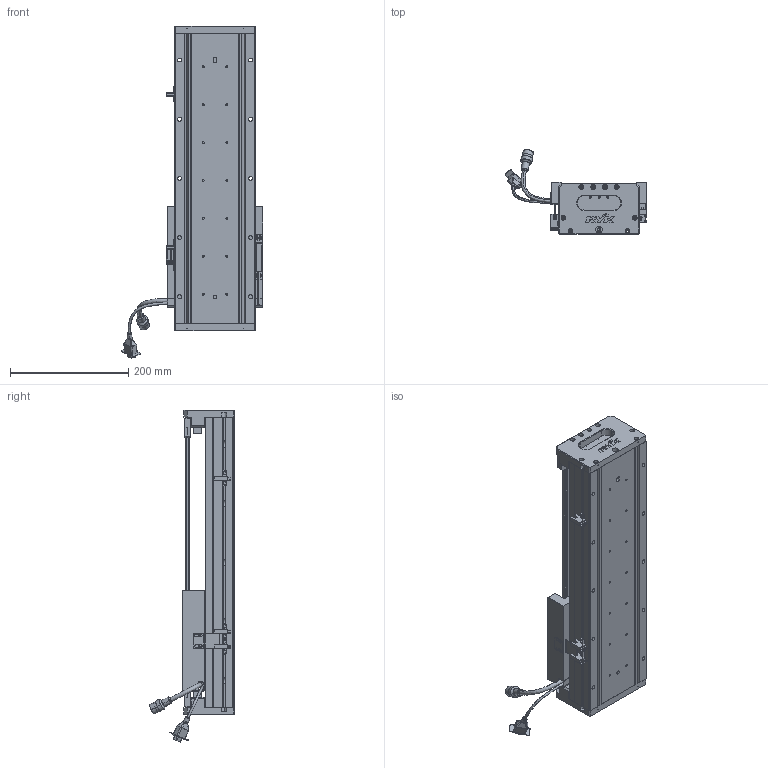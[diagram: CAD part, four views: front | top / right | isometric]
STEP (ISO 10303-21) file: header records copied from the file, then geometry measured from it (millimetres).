
FILE_DESCRIPTION (( 'STEP AP203' ), '1' );
FILE_NAME ('Z2-RY140D-1-L500-B-K.SLDASM_0250.step', '2021-05-17T07:44:38', ( '盈信电脑' ), ( '东莞市道滘镇水果街19号' ), 'SwSTEP 2.0', 'SolidWorks 2016', '' );
FILE_SCHEMA (( 'CONFIG_CONTROL_DESIGN' ));
Length unit declared in the file: millimetre
Products named in the file (36): Z2-RY140D-1-L500-B-K.SLDASM_0250; SEAL-Part-1; Z2-RY140圉猾敕臏賑輸(21遴); Z-RY140詩湍狟揤裔; SCREW-M1.6-2; SCALE-Part-1; PSLH080_PSLF2; HARNESS-Part-1; 140雄赽晤鎢ん堤盄; Z2-RY140-L500直线电机模组底座_0250; SCREW-M1.6-3; SCREW-M1.6; PBU_SHEET; HARNESS-Part-2; Z-140詩湍傷裔啣; 榋妏寠巭燃_暯_M2_2; 140蚥薯蝶輸; SCREW-M1.7-1; Z2-RY140-L500詩湍100mm遵_0250; SCREW-M1.6-1; COVER-Part-1; SCREW-M1.7; HOLDER0; 080黍杅芛假蚾釱21遴; 140-Z-臏賑輸盄裔(21遴); LABEL; SCALE; LABEL-Part-1; 覜茼ん672; HARNESS; SCALE-Part-2; Z-RY140詩湍奻揤裔; SEAL; SHIELDPLATE; COVER; Z-RY140感应器672光电感应片
Assembly tree (41 placements, depth 4):
  Z2-RY140D-1-L500-B-K.SLDASM_0250
    Z2-RY140-L500直线电机模组底座_0250
    Z-RY140感应器672光电感应片
    Z2-RY140圉猾敕臏賑輸(21遴)
    覜茼ん672  x3
    Z2-RY140-L500詩湍100mm遵_0250
    PSLH080_PSLF2
      SCALE
        SCALE-Part-1
        SCALE-Part-2
      HARNESS
        HARNESS-Part-1
        HARNESS-Part-2
      LABEL
        LABEL-Part-1
      COVER
        COVER-Part-1
      SEAL
        SEAL-Part-1
      榋妏寠巭燃_暯_M2_2
      SHIELDPLATE
      SCREW-M1.7
      SCREW-M1.7-1
      PBU_SHEET
      SCREW-M1.6
      SCREW-M1.6-1
      SCREW-M1.6-2
      SCREW-M1.6-3
      HOLDER0
    080黍杅芛假蚾釱21遴
    140-Z-臏賑輸盄裔(21遴)
    Z-140詩湍傷裔啣  x2
    Z-RY140詩湍狟揤裔  x2
    Z-RY140詩湍奻揤裔  x2
    140蚥薯蝶輸  x2
    140雄赽晤鎢ん堤盄
Bounding box: 239.84 x 143.77 x 560.88 mm (x, y, z)
Volume: 2394426.5 mm3; surface area: 628412.3 mm2
Topology: 36 solids, 36 shells, 2580 faces, 6696 edges, 4239 vertices
Faces by surface type: cylinder 1126, plane 1072, cone 250, torus 79, bspline 53
Entity records: 72644 total; most frequent: CARTESIAN_POINT 17259, DIRECTION 10856, ORIENTED_EDGE 10600, EDGE_CURVE 5300, AXIS2_PLACEMENT_3D 3972, VERTEX_POINT 3407, LINE 2912, VECTOR 2912
